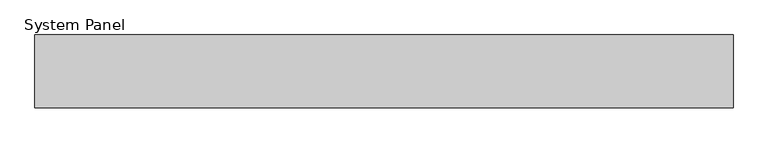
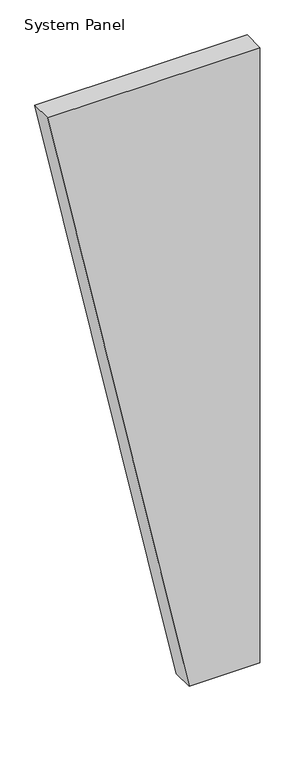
"""IFC4 building model written with IfcOpenShell, lengths in millimetres: plate geometry, System Panel : Equitilt_125mm_Plain_Surfmist."""

import ifcopenshell
import ifcopenshell.guid

model = None  # the IFC model being written
_history = None  # IfcOwnerHistory: only IFC2X3 demands one
_inside = {}  # id of a spatial element -> (the spatial element, [elements in it])
_under = {}  # id of a project, library or spatial element -> (it, [spatial elements below it])
_declared = {}  # id of a project -> (the project, [libraries it declares])
_typed = {}  # id of a type object -> (the type object, [elements of that type])
_made_of = {}  # id of a material, layer set ... -> (it, [elements and type objects made of it])


def new_model(schema):
    """Start an empty IFC model of exactly this schema.

    Asked for "IFC4X3", IfcOpenShell would pick the latest addendum, in which some entities
    have other attributes; the version numbers below select the first issue.
    IFC2X3 requires an IfcOwnerHistory on every rooted entity: one is made here for all.
    """
    global model, _history
    if schema == "IFC4X3":
        model = ifcopenshell.file(schema_version=(4, 3, 0, 0))
    else:
        model = ifcopenshell.file(schema=schema)
    _inside.clear()
    _under.clear()
    _declared.clear()
    _typed.clear()
    _made_of.clear()
    _history = None
    if model.schema == "IFC2X3":
        org = make("IfcOrganization", Name="unknown")
        user = make(
            "IfcPersonAndOrganization",
            ThePerson=make("IfcPerson", FamilyName="unknown"),
            TheOrganization=org,
        )
        app = make(
            "IfcApplication",
            ApplicationDeveloper=org,
            Version="unknown",
            ApplicationFullName="unknown",
            ApplicationIdentifier="unknown",
        )
        _history = make(
            "IfcOwnerHistory",
            OwningUser=user,
            OwningApplication=app,
            ChangeAction="ADDED",
            CreationDate=0,
        )
    return model


def make(cls, **values):
    """One entity of the class cls with the attributes given. An attribute that is None is left unset."""
    return model.create_entity(
        cls, **{name: value for name, value in values.items() if value is not None}
    )


def rooted(cls, **values):
    """An entity with a GlobalId (a new one), such as an element, a storey or a relation."""
    return make(cls, GlobalId=ifcopenshell.guid.new(), OwnerHistory=_history, **values)


def si_unit(unit_type, name, prefix=None):
    """IfcSIUnit, for example si_unit("LENGTHUNIT", "METRE", prefix="MILLI")."""
    return make("IfcSIUnit", UnitType=unit_type, Prefix=prefix, Name=name)


def assignment(units):
    """IfcUnitAssignment: the units of a project."""
    return None if units is None else make("IfcUnitAssignment", Units=units)


def point(xyz):
    """IfcCartesianPoint."""
    return None if xyz is None else make("IfcCartesianPoint", Coordinates=xyz)


def direction(xyz):
    """IfcDirection."""
    return None if xyz is None else make("IfcDirection", DirectionRatios=xyz)


def frame(location, z_axis=None, x_axis=None):
    """IfcAxis2Placement3D, a coordinate frame: its origin and axes. An axis left out is left unset."""
    return make(
        "IfcAxis2Placement3D",
        Location=point(location),
        Axis=direction(z_axis),
        RefDirection=direction(x_axis),
    )


def origin():
    """The frame at (0, 0, 0) with its axes left unset."""
    return frame((0.0, 0.0, 0.0))


def place(relative_to, where):
    """IfcLocalPlacement: puts the frame where relative to a parent placement (None: the world)."""
    return make(
        "IfcLocalPlacement", PlacementRelTo=relative_to, RelativePlacement=where
    )


def context(
    kind, dimensions, precision=None, world=None, true_north=None, identifier=None
):
    """IfcGeometricRepresentationContext, for example the 3D "Model" context."""
    return make(
        "IfcGeometricRepresentationContext",
        ContextIdentifier=identifier,
        ContextType=kind,
        CoordinateSpaceDimension=dimensions,
        Precision=precision,
        WorldCoordinateSystem=world,
        TrueNorth=true_north,
    )


def project(units=None, contexts=None):
    """IfcProject with its units and contexts."""
    return rooted(
        "IfcProject",
        Name="project",
        RepresentationContexts=contexts,
        UnitsInContext=assignment(units),
    )


def spatial(cls, under=None, at=None, **own):
    """A site, building, storey or space (cls), placed at a placement, below another one or the project."""
    s = rooted(cls, ObjectPlacement=at, **own)
    if under is not None:
        _under.setdefault(under.id(), (under, []))[1].append(s)
    return s


def polyline(points):
    """IfcPolyline through the points."""
    return make("IfcPolyline", Points=[point(p) for p in points])


def outline(outer, holes=None, kind="AREA"):
    """IfcArbitraryClosedProfileDef: a profile drawn as a closed curve; with holes, ...WithVoids."""
    if holes is None:
        return make("IfcArbitraryClosedProfileDef", ProfileType=kind, OuterCurve=outer)
    return make(
        "IfcArbitraryProfileDefWithVoids",
        ProfileType=kind,
        OuterCurve=outer,
        InnerCurves=holes,
    )


def extrude(swept, where, along, depth):
    """IfcExtrudedAreaSolid: the profile swept, set in the frame where, extruded along a direction by depth."""
    return make(
        "IfcExtrudedAreaSolid",
        SweptArea=swept,
        Position=where,
        ExtrudedDirection=direction(along),
        Depth=depth,
    )


def shape(context_of_items, identifier, shape_type, items):
    """IfcShapeRepresentation: the items that make up one representation, for example the "Body"."""
    return make(
        "IfcShapeRepresentation",
        ContextOfItems=context_of_items,
        RepresentationIdentifier=identifier,
        RepresentationType=shape_type,
        Items=items,
    )


def source(mapping_origin, context_of_items, identifier, shape_type, items):
    """IfcRepresentationMap: a shape defined once, which mapped items show again and again."""
    return make(
        "IfcRepresentationMap",
        MappingOrigin=mapping_origin,
        MappedRepresentation=shape(context_of_items, identifier, shape_type, items),
    )


def transform(
    local_origin,
    x_axis=None,
    y_axis=None,
    z_axis=None,
    scale=None,
    scale2=None,
    scale3=None,
    uniform=True,
):
    """IfcCartesianTransformationOperator3D, or its non-uniform kind. x_axis, y_axis, z_axis: its Axis1, 2, 3."""
    if uniform:
        return make(
            "IfcCartesianTransformationOperator3D",
            Axis1=direction(x_axis),
            Axis2=direction(y_axis),
            LocalOrigin=point(local_origin),
            Scale=scale,
            Axis3=direction(z_axis),
        )
    return make(
        "IfcCartesianTransformationOperator3DnonUniform",
        Axis1=direction(x_axis),
        Axis2=direction(y_axis),
        LocalOrigin=point(local_origin),
        Scale=scale,
        Axis3=direction(z_axis),
        Scale2=scale2,
        Scale3=scale3,
    )


def mapped(mapping_source, mapping_target):
    """IfcMappedItem: shows the shape of a source again, moved by a transform."""
    return make(
        "IfcMappedItem", MappingSource=mapping_source, MappingTarget=mapping_target
    )


def made_of(thing, what):
    """Note that an element or type object is made of a material, layer set ...; save() writes the relation."""
    if what is not None:
        _made_of.setdefault(what.id(), (what, []))[1].append(thing)
    return thing


def element(
    cls,
    number,
    at=None,
    inside=None,
    cuts=None,
    type_object=None,
    material=None,
    context=None,
    identifier="Body",
    shape_type=None,
    held_by="IfcProductDefinitionShape",
    body=None,
    shapes=None,
    **own,
):
    """One element of the class cls, such as IfcWall. Its Tag is "e" and its number.

    at: its placement. inside: the storey or other place that contains it. cuts: it is an
    opening in that element (IfcRelVoidsElement). A single representation is given by context,
    identifier, shape_type and body (its items); several are given by shapes. held_by: the class
    of the entity that holds the representations. save() writes the other relations.
    """
    e = rooted(cls, Tag="e%d" % number, ObjectPlacement=at, **own)
    if body is not None:
        shapes = [shape(context, identifier, shape_type, body)]
    if shapes is not None:
        e.Representation = make(held_by, Representations=shapes)
    if inside is not None:
        _inside.setdefault(inside.id(), (inside, []))[1].append(e)
    if cuts is not None:
        rooted(
            "IfcRelVoidsElement", RelatingBuildingElement=cuts, RelatedOpeningElement=e
        )
    if type_object is not None:
        _typed.setdefault(type_object.id(), (type_object, []))[1].append(e)
    return made_of(e, material)


def aggregate(whole, parts):
    """IfcRelAggregates: a whole, such as a stair, and the parts it consists of."""
    return rooted("IfcRelAggregates", RelatingObject=whole, RelatedObjects=parts)


def save(model, path):
    """Write the relations noted so far, then the file.

    IfcRelAggregates (storeys below a building ...), IfcRelContainedInSpatialStructure (elements
    in a storey), IfcRelDefinesByType, IfcRelAssociatesMaterial and IfcRelDeclares: one each for
    every whole, place, type object, material and project.
    """
    for whole, parts in _under.values():
        aggregate(whole, parts)
    for where, things in _inside.values():
        rooted(
            "IfcRelContainedInSpatialStructure",
            RelatedElements=things,
            RelatingStructure=where,
        )
    for kind, things in _typed.values():
        rooted("IfcRelDefinesByType", RelatedObjects=things, RelatingType=kind)
    for what, things in _made_of.values():
        rooted("IfcRelAssociatesMaterial", RelatedObjects=things, RelatingMaterial=what)
    for by, libraries in _declared.values():
        rooted("IfcRelDeclares", RelatingContext=by, RelatedDefinitions=libraries)
    model.write(path)


def system_panel_e961bc5a(model_context):
    return source(origin(), model_context, "Body", "SweptSolid", [
        extrude(outline(polyline([(0.0, 200.0), (0.0, 600.0), (3679.9704237, 600.0), (3679.9704237, -600.0), (0.0, 200.0)])), frame((0.0, -125.0, 0.0), z_axis=(0.0, 1.0, 0.0), x_axis=(0.0, 0.0, 1.0)), (0.0, 0.0, 1.0), 125.0),
    ])


if __name__ == "__main__":
    model = new_model("IFC4")
    model_context = context("Model", 3, world=origin())
    ifc_project = project(units=[si_unit("LENGTHUNIT", "METRE", prefix="MILLI")], contexts=[model_context])
    site = spatial("IfcSite", under=ifc_project)
    building = spatial("IfcBuilding", under=site)
    placement = place(None, origin())
    system_panel_shape = system_panel_e961bc5a(model_context)
    element("IfcPlate", 1, ObjectType="System Panel : Equitilt_125mm_Plain_Surfmist", at=placement, inside=building, context=model_context, shape_type="MappedRepresentation", body=[
        mapped(system_panel_shape, transform((0.0, 0.0, 0.0), x_axis=(1.0, 0.0, 0.0), y_axis=(0.0, 1.0, 0.0), z_axis=(0.0, 0.0, 1.0))),
    ])
    save(model, "model.ifc")
